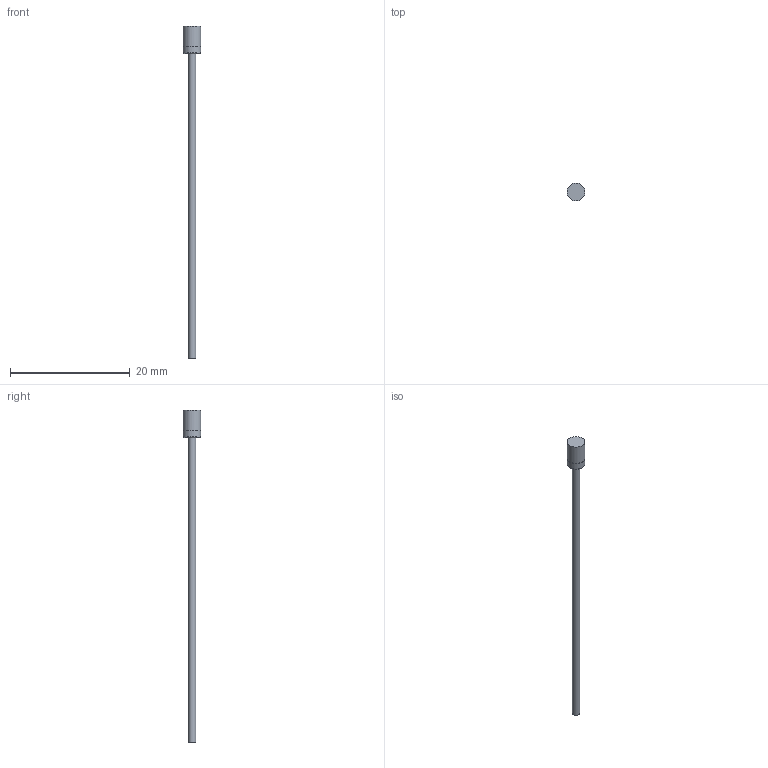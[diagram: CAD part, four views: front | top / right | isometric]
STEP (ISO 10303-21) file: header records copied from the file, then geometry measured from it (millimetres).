
FILE_DESCRIPTION( ( 'STEP AP214' ), '1' );
FILE_NAME( 'C:/Documents and Settings/andrew/Desktop/3mm Temp Sensor.stp', '2009-03-30T20:24:53', ( ' ' ), ( ' ' ), 'XStep 1.0', 'VISI-Series', ' ' );
FILE_SCHEMA( ( 'automotive_design' ) );
Length unit declared in the file: inch
Products named in the file (2): 1; 2
Bounding box: 3 x 3 x 55.42 mm (x, y, z)
Volume: 96.6 mm3; surface area: 261.9 mm2
Topology: 2 solids, 2 shells, 9 faces, 13 edges, 9 vertices
Faces by surface type: plane 5, cylinder 3, cone 1
Full cylindrical faces by diameter (mm): 1.27 x1, 2.946 x1, 2.997 x1
Entity records: 269 total; most frequent: DIRECTION 36, CARTESIAN_POINT 25, AXIS2_PLACEMENT_3D 18, EDGE_LOOP 14, ORIENTED_EDGE 14, FACE_OUTER_BOUND 12, STYLED_ITEM 9, PRESENTATION_STYLE_ASSIGNMENT 9
